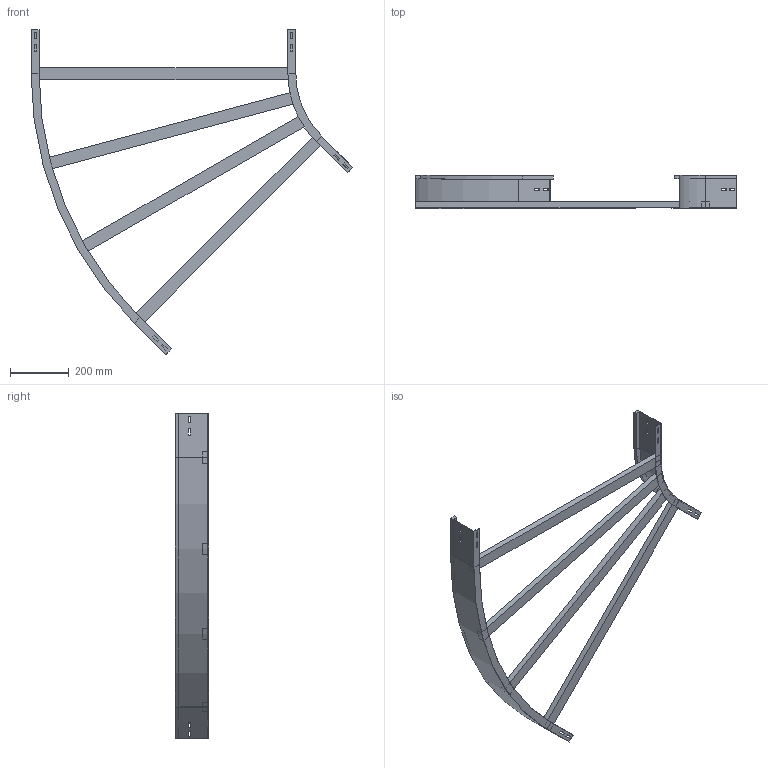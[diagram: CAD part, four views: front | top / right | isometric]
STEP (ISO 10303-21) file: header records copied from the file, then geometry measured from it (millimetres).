
FILE_DESCRIPTION (( 'STEP AP214' ), '1' );
FILE_NAME ('A2_11B3J900.step', '2025-02-21T15:14:38', ( '' ), ( '' ), 'SwSTEP 2.0', 'SolidWorks 2023', '' );
FILE_SCHEMA (( 'AUTOMOTIVE_DESIGN' ));
Length unit declared in the file: millimetre
Products named in the file (4): A2_11B3J900; A2_LONGH.INTERNO 45°_H112.5_R300; A2_LONGH.ESTERNO 45°_H112.5_R300+900; TRAVERSINO_900
Assembly tree (6 placements, depth 2):
  A2_11B3J900
    A2_LONGH.INTERNO 45°_H112.5_R300
    A2_LONGH.ESTERNO 45°_H112.5_R300+900
    TRAVERSINO_900  x4
Bounding box: 1093.93 x 112.5 x 1104.59 mm (x, y, z)
Volume: 3728483.4 mm3; surface area: 991928.2 mm2
Topology: 6 solids, 6 shells, 140 faces, 352 edges, 224 vertices
Faces by surface type: plane 132, cylinder 8
Entity records: 3829 total; most frequent: CARTESIAN_POINT 647, ORIENTED_EDGE 632, DIRECTION 594, EDGE_CURVE 316, VECTOR 300, LINE 300, VERTEX_POINT 200, EDGE_LOOP 154
